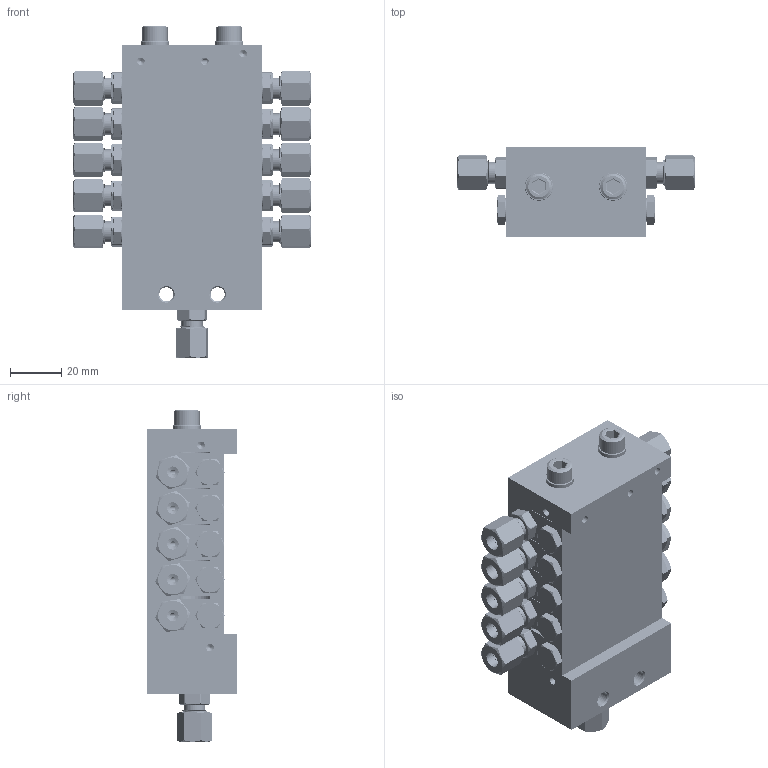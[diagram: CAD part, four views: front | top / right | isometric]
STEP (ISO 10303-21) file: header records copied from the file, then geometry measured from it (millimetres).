
FILE_DESCRIPTION (( 'STEP AP214' ), '1' );
FILE_NAME ('STW_XV_0143_10_050_10_Auslässe.STEP', '2026-01-28T14:53:21', ( '' ), ( '' ), 'SwSTEP 2.0', 'SolidWorks 2022', '' );
FILE_SCHEMA (( 'AUTOMOTIVE_DESIGN' ));
Length unit declared in the file: millimetre
Products named in the file (14): M6X65_DIN_912; STW_XV_END; 991214010601; 991214010601_Schneidring; STW_XV_MITTEL_1; STW_XV_ENGANG; 991214010601_Mutter; STW_XV_Kolbenanschlag; Verschlussstopfen_1_8_2; 991214010601_Koerper; STW_XV_0143_10_050_10_Auslässe; STW_XV_Verbindungsstopen; U_Scheibe_6; XV_Mittelelement
Assembly tree (46 placements, depth 3):
  STW_XV_0143_10_050_10_Auslässe
    STW_XV_ENGANG
    STW_XV_MITTEL_1  x3
    STW_XV_END
    Verschlussstopfen_1_8_2  x6
    STW_XV_Kolbenanschlag  x6
    STW_XV_Verbindungsstopen  x3
    M6X65_DIN_912  x2
    U_Scheibe_6  x2
    991214010601  x11
      991214010601_Koerper
      991214010601_Schneidring
      991214010601_Mutter
    XV_Mittelelement  x2
      STW_XV_MITTEL_1
      STW_XV_Kolbenanschlag
      Verschlussstopfen_1_8_2
      STW_XV_Verbindungsstopen
Bounding box: 92.76 x 35 x 129.68 mm (x, y, z)
Volume: 187559.7 mm3; surface area: 107260.3 mm2
Topology: 69 solids, 69 shells, 2237 faces, 5659 edges, 3638 vertices
Faces by surface type: plane 1012, cylinder 671, cone 382, bspline 162, torus 10
Full cylindrical faces by diameter (mm): 2 x137, 3 x12, 4.5 x11, 5 x56, 5.5 x2, 5.9 x2, 6 x13, 6.2 x23, 6.4 x2, 6.5 x10, 7 x10, 7.4 x11, 7.67 x11, 8 x21, 8.3 x11, 8.4 x5, 8.6 x25, 9 x22, 9.7 x10, 9.73 x5, 9.8 x77, 10 x12, 11 x2, 15 x1
Entity records: 40659 total; most frequent: CARTESIAN_POINT 20491, ORIENTED_EDGE 2738, DIRECTION 2327, EDGE_CURVE 1369, VERTEX_POINT 974, EDGE_LOOP 901, AXIS2_PLACEMENT_3D 814, FACE_OUTER_BOUND 724
